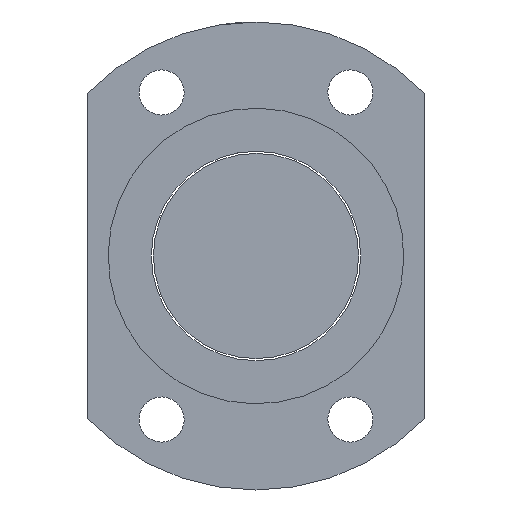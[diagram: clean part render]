
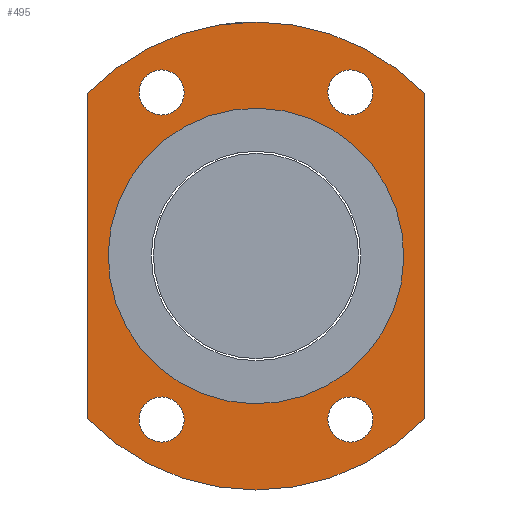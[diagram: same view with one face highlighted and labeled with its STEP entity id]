
A CAD part, left-side view. The second image highlights one B-rep face of the part: STEP entity #495.
In plain terms, the highlighted planar face has unit normal (-1, 0, 0).
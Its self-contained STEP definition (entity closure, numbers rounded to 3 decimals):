
#315=CARTESIAN_POINT('Line Origine',(-18.,-41.,0.)) ;
#319=CARTESIAN_POINT('Vertex',(-18.,-41.,39.598)) ;
#321=CARTESIAN_POINT('Vertex',(-18.,-41.,-39.598)) ;
#350=CARTESIAN_POINT('Vertex',(-18.,41.,-39.598)) ;
#353=CARTESIAN_POINT('Axis2P3D Location',(-18.,0.,0.)) ;
#370=CARTESIAN_POINT('Line Origine',(-18.,41.,0.)) ;
#374=CARTESIAN_POINT('Vertex',(-18.,41.,39.598)) ;
#389=CARTESIAN_POINT('Axis2P3D Location',(-18.,0.,66.513)) ;
#394=CARTESIAN_POINT('Axis2P3D Location',(-18.,0.,0.)) ;
#405=CARTESIAN_POINT('Axis2P3D Location',(-18.,23.,-39.837)) ;
#409=CARTESIAN_POINT('Vertex',(-18.,27.827,-42.474)) ;
#411=CARTESIAN_POINT('Vertex',(-18.,18.173,-37.2)) ;
#414=CARTESIAN_POINT('Axis2P3D Location',(-18.,23.,-39.837)) ;
#423=CARTESIAN_POINT('Axis2P3D Location',(-18.,-23.,-39.837)) ;
#427=CARTESIAN_POINT('Vertex',(-18.,-27.827,-37.2)) ;
#429=CARTESIAN_POINT('Vertex',(-18.,-18.173,-42.474)) ;
#432=CARTESIAN_POINT('Axis2P3D Location',(-18.,-23.,-39.837)) ;
#441=CARTESIAN_POINT('Axis2P3D Location',(-18.,-23.,39.837)) ;
#445=CARTESIAN_POINT('Vertex',(-18.,-27.827,42.474)) ;
#447=CARTESIAN_POINT('Vertex',(-18.,-18.173,37.2)) ;
#450=CARTESIAN_POINT('Axis2P3D Location',(-18.,-23.,39.837)) ;
#459=CARTESIAN_POINT('Axis2P3D Location',(-18.,23.,39.837)) ;
#463=CARTESIAN_POINT('Vertex',(-18.,27.827,37.2)) ;
#465=CARTESIAN_POINT('Vertex',(-18.,18.173,42.474)) ;
#468=CARTESIAN_POINT('Axis2P3D Location',(-18.,23.,39.837)) ;
#477=CARTESIAN_POINT('Axis2P3D Location',(-18.,0.,0.)) ;
#481=CARTESIAN_POINT('Vertex',(-18.,17.259,31.593)) ;
#483=CARTESIAN_POINT('Vertex',(-18.,-17.259,-31.593)) ;
#486=CARTESIAN_POINT('Axis2P3D Location',(-18.,0.,0.)) ;
#316=DIRECTION('Vector Direction',(0.,0.,-1.)) ;
#354=DIRECTION('Axis2P3D Direction',(1.,0.,0.)) ;
#371=DIRECTION('Vector Direction',(0.,0.,1.)) ;
#390=DIRECTION('Axis2P3D Direction',(-1.,0.,0.)) ;
#391=DIRECTION('Axis2P3D XDirection',(0.,1.,0.)) ;
#395=DIRECTION('Axis2P3D Direction',(-1.,0.,0.)) ;
#406=DIRECTION('Axis2P3D Direction',(-1.,0.,0.)) ;
#415=DIRECTION('Axis2P3D Direction',(-1.,0.,0.)) ;
#424=DIRECTION('Axis2P3D Direction',(-1.,0.,0.)) ;
#433=DIRECTION('Axis2P3D Direction',(-1.,0.,0.)) ;
#442=DIRECTION('Axis2P3D Direction',(-1.,0.,0.)) ;
#451=DIRECTION('Axis2P3D Direction',(-1.,0.,0.)) ;
#460=DIRECTION('Axis2P3D Direction',(-1.,0.,0.)) ;
#469=DIRECTION('Axis2P3D Direction',(-1.,0.,0.)) ;
#478=DIRECTION('Axis2P3D Direction',(-1.,0.,0.)) ;
#487=DIRECTION('Axis2P3D Direction',(-1.,0.,0.)) ;
#355=AXIS2_PLACEMENT_3D('Circle Axis2P3D',#353,#354,$) ;
#392=AXIS2_PLACEMENT_3D('Plane Axis2P3D',#389,#390,#391) ;
#396=AXIS2_PLACEMENT_3D('Circle Axis2P3D',#394,#395,$) ;
#407=AXIS2_PLACEMENT_3D('Circle Axis2P3D',#405,#406,$) ;
#416=AXIS2_PLACEMENT_3D('Circle Axis2P3D',#414,#415,$) ;
#425=AXIS2_PLACEMENT_3D('Circle Axis2P3D',#423,#424,$) ;
#434=AXIS2_PLACEMENT_3D('Circle Axis2P3D',#432,#433,$) ;
#443=AXIS2_PLACEMENT_3D('Circle Axis2P3D',#441,#442,$) ;
#452=AXIS2_PLACEMENT_3D('Circle Axis2P3D',#450,#451,$) ;
#461=AXIS2_PLACEMENT_3D('Circle Axis2P3D',#459,#460,$) ;
#470=AXIS2_PLACEMENT_3D('Circle Axis2P3D',#468,#469,$) ;
#479=AXIS2_PLACEMENT_3D('Circle Axis2P3D',#477,#478,$) ;
#488=AXIS2_PLACEMENT_3D('Circle Axis2P3D',#486,#487,$) ;
#400=ORIENTED_EDGE('',*,*,#398,.T.) ;
#401=ORIENTED_EDGE('',*,*,#376,.F.) ;
#402=ORIENTED_EDGE('',*,*,#357,.T.) ;
#403=ORIENTED_EDGE('',*,*,#323,.F.) ;
#420=ORIENTED_EDGE('',*,*,#413,.F.) ;
#421=ORIENTED_EDGE('',*,*,#418,.F.) ;
#438=ORIENTED_EDGE('',*,*,#431,.F.) ;
#439=ORIENTED_EDGE('',*,*,#436,.F.) ;
#456=ORIENTED_EDGE('',*,*,#449,.F.) ;
#457=ORIENTED_EDGE('',*,*,#454,.F.) ;
#474=ORIENTED_EDGE('',*,*,#467,.F.) ;
#475=ORIENTED_EDGE('',*,*,#472,.F.) ;
#492=ORIENTED_EDGE('',*,*,#485,.F.) ;
#493=ORIENTED_EDGE('',*,*,#490,.F.) ;
#422=FACE_BOUND('',#419,.T.) ;
#440=FACE_BOUND('',#437,.T.) ;
#458=FACE_BOUND('',#455,.T.) ;
#476=FACE_BOUND('',#473,.T.) ;
#494=FACE_BOUND('',#491,.T.) ;
#317=VECTOR('Line Direction',#316,1.) ;
#372=VECTOR('Line Direction',#371,1.) ;
#495=ADVANCED_FACE('NUT',(#404,#422,#440,#458,#476,#494),#393,.T.) ;
#356=CIRCLE('generated circle',#355,57.) ;
#397=CIRCLE('generated circle',#396,57.) ;
#408=CIRCLE('generated circle',#407,5.5) ;
#417=CIRCLE('generated circle',#416,5.5) ;
#426=CIRCLE('generated circle',#425,5.5) ;
#435=CIRCLE('generated circle',#434,5.5) ;
#444=CIRCLE('generated circle',#443,5.5) ;
#453=CIRCLE('generated circle',#452,5.5) ;
#462=CIRCLE('generated circle',#461,5.5) ;
#471=CIRCLE('generated circle',#470,5.5) ;
#480=CIRCLE('generated circle',#479,36.) ;
#489=CIRCLE('generated circle',#488,36.) ;
#323=EDGE_CURVE('',#320,#322,#318,.T.) ;
#357=EDGE_CURVE('',#351,#322,#356,.F.) ;
#376=EDGE_CURVE('',#351,#375,#373,.T.) ;
#398=EDGE_CURVE('',#320,#375,#397,.T.) ;
#413=EDGE_CURVE('',#410,#412,#408,.T.) ;
#418=EDGE_CURVE('',#412,#410,#417,.T.) ;
#431=EDGE_CURVE('',#428,#430,#426,.T.) ;
#436=EDGE_CURVE('',#430,#428,#435,.T.) ;
#449=EDGE_CURVE('',#446,#448,#444,.T.) ;
#454=EDGE_CURVE('',#448,#446,#453,.T.) ;
#467=EDGE_CURVE('',#464,#466,#462,.T.) ;
#472=EDGE_CURVE('',#466,#464,#471,.T.) ;
#485=EDGE_CURVE('',#482,#484,#480,.T.) ;
#490=EDGE_CURVE('',#484,#482,#489,.T.) ;
#399=EDGE_LOOP('',(#400,#401,#402,#403)) ;
#419=EDGE_LOOP('',(#420,#421)) ;
#437=EDGE_LOOP('',(#438,#439)) ;
#455=EDGE_LOOP('',(#456,#457)) ;
#473=EDGE_LOOP('',(#474,#475)) ;
#491=EDGE_LOOP('',(#492,#493)) ;
#404=FACE_OUTER_BOUND('',#399,.T.) ;
#318=LINE('Line',#315,#317) ;
#373=LINE('Line',#370,#372) ;
#393=PLANE('',#392) ;
#320=VERTEX_POINT('',#319) ;
#322=VERTEX_POINT('',#321) ;
#351=VERTEX_POINT('',#350) ;
#375=VERTEX_POINT('',#374) ;
#410=VERTEX_POINT('',#409) ;
#412=VERTEX_POINT('',#411) ;
#428=VERTEX_POINT('',#427) ;
#430=VERTEX_POINT('',#429) ;
#446=VERTEX_POINT('',#445) ;
#448=VERTEX_POINT('',#447) ;
#464=VERTEX_POINT('',#463) ;
#466=VERTEX_POINT('',#465) ;
#482=VERTEX_POINT('',#481) ;
#484=VERTEX_POINT('',#483) ;
